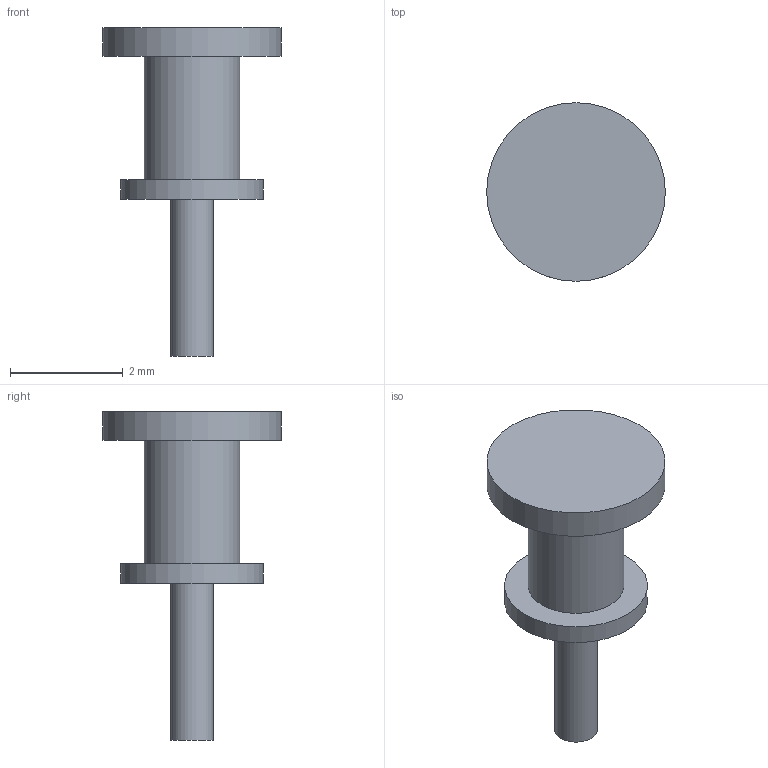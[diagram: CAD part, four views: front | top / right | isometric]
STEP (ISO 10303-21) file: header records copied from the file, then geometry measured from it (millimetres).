
FILE_DESCRIPTION(('FreeCAD Model'),'2;1');
FILE_NAME('Open CASCADE Shape Model','2026-11-12T19:27:27',('FreeCAD'),( 'FreeCAD'),'Open CASCADE STEP processor 7.8','FreeCAD','Unknown');
FILE_SCHEMA(('AUTOMOTIVE_DESIGN { 1 0 10303 214 1 1 1 1 }'));
Length unit declared in the file: millimetre
Products named in the file (1): Open CASCADE STEP translator 7.8 1
Bounding box: 3.17 x 3.17 x 5.84 mm (x, y, z)
Volume: 12 mm3; surface area: 47.7 mm2
Topology: 1 solids, 1 shells, 9 faces, 12 edges, 8 vertices
Faces by surface type: plane 5, cylinder 4
Full cylindrical faces by diameter (mm): 0.762 x1, 1.702 x1, 2.54 x1, 3.175 x1
Entity records: 204 total; most frequent: DIRECTION 40, CARTESIAN_POINT 30, ORIENTED_EDGE 24, AXIS2_PLACEMENT_3D 18, FACE_BOUND 12, EDGE_LOOP 12, EDGE_CURVE 12, ADVANCED_FACE 9
